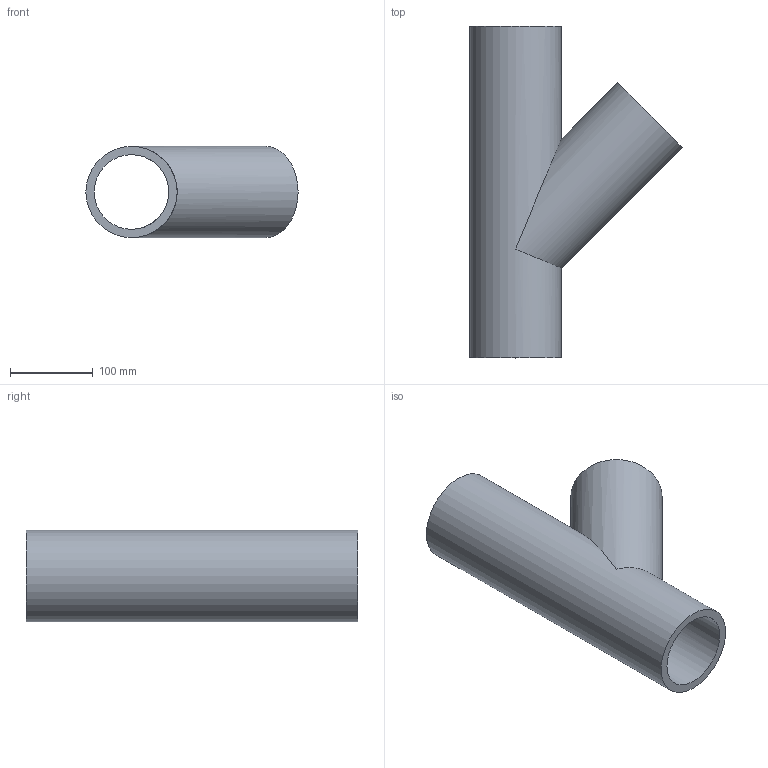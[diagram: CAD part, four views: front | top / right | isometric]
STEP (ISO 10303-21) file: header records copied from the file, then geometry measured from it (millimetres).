
FILE_DESCRIPTION(('Beschreibung'),'1');
FILE_NAME('V:/Ziel/25.25.01.103_SDR_11_PE100_110.STP', '2014-09-15T05:57:51',('Author'), ('Organization'), 'KCM Version 1.1.794.0', 'Kubotek KeyCreator', 'Authorization');
FILE_SCHEMA(('CONFIG_CONTROL_DESIGN'));
Length unit declared in the file: millimetre
Bounding box: 255.82 x 400 x 110 mm (x, y, z)
Volume: 1692270.2 mm3; surface area: 347509.1 mm2
Topology: 1 solids, 1 shells, 7 faces, 28 edges, 24 vertices
Faces by surface type: cylinder 4, plane 3
Full cylindrical faces by diameter (mm): 90 x2, 110 x2
Entity records: 787 total; most frequent: CARTESIAN_POINT 470, DIRECTION 48, ORIENTED_EDGE 48, EDGE_CURVE 24, AXIS2_PLACEMENT_3D 22, VERTEX_POINT 20, EDGE_LOOP 12, CIRCLE 10
